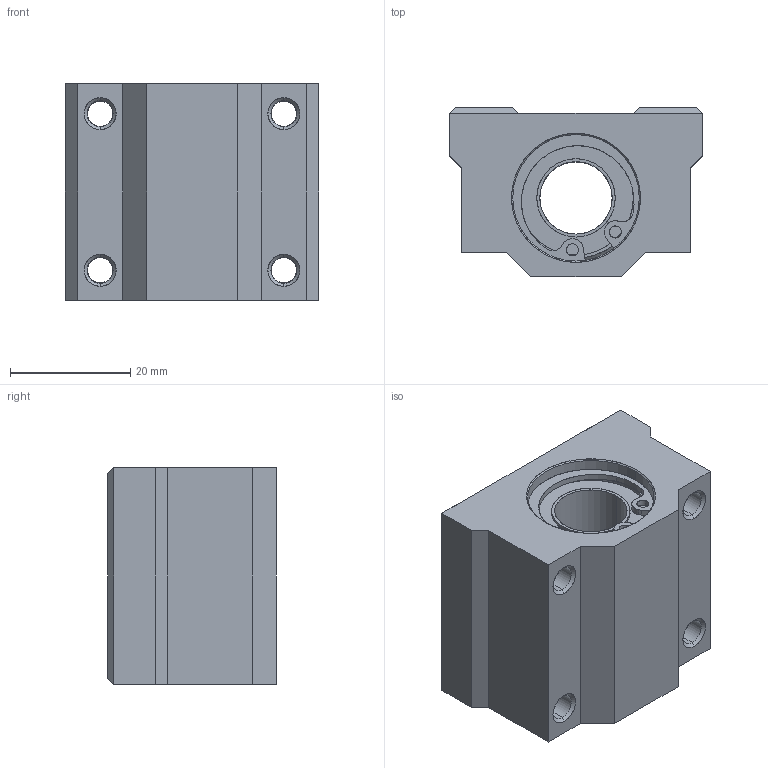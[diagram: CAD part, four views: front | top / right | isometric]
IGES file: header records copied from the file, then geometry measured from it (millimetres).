
Start section: SolidWorks IGES file using analytic representation for surfaces
Global section: file name: D:\SOLIDWORKS PROEKTI\freelance cnc cat\VTORA SERIJA\SC-UU\SC12UU.IGS; native system: SolidWorks 2016; preprocessor: SolidWorks 2016; author: User; date: 170805.190430; units: millimetre
Bounding box: 42 x 28 x 36 mm (x, y, z)
Surface area: 14222.8 mm2 (no closed solid volume)
Topology: 0 solids, 0 shells, 318 faces, 7586 edges, 9202 vertices
Faces by surface type: bspline 211, revolution 107
